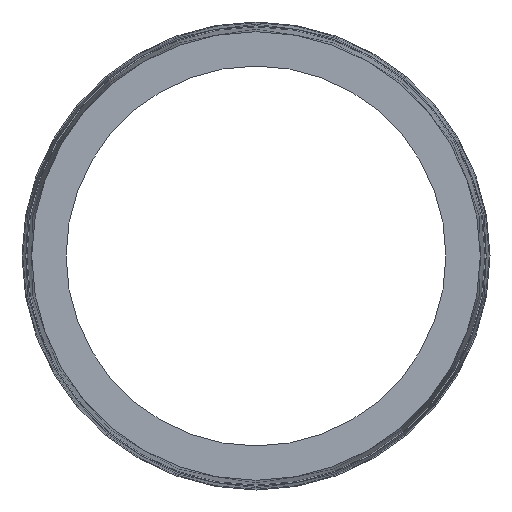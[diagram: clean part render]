
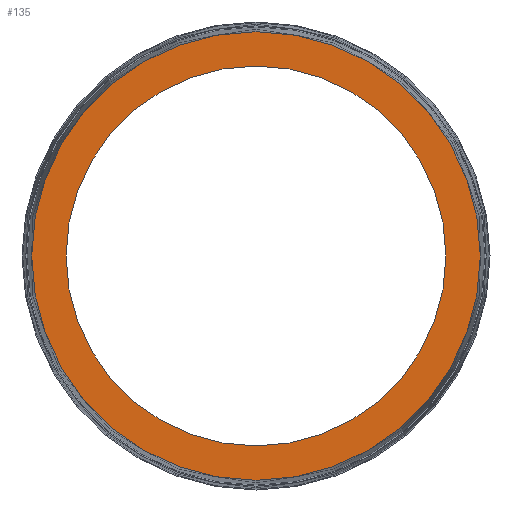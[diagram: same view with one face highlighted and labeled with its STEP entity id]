
A CAD part, front view. The second image highlights one B-rep face of the part: STEP entity #135.
In plain terms, the highlighted planar face has unit normal (0, -1, 0).
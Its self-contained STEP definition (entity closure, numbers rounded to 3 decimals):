
#18=PLANE('',#152);
#25=FACE_BOUND('',#50,.T.);
#26=FACE_BOUND('',#51,.T.);
#50=EDGE_LOOP('',(#110));
#51=EDGE_LOOP('',(#111));
#73=CIRCLE('',#151,13.8);
#74=CIRCLE('',#153,16.295);
#85=VERTEX_POINT('',#227);
#86=VERTEX_POINT('',#230);
#97=EDGE_CURVE('',#85,#85,#73,.T.);
#98=EDGE_CURVE('',#86,#86,#74,.T.);
#110=ORIENTED_EDGE('',*,*,#97,.T.);
#111=ORIENTED_EDGE('',*,*,#98,.F.);
#135=ADVANCED_FACE('',(#25,#26),#18,.T.);
#151=AXIS2_PLACEMENT_3D('',#228,#179,#180);
#152=AXIS2_PLACEMENT_3D('',#229,#181,#182);
#153=AXIS2_PLACEMENT_3D('',#231,#183,#184);
#179=DIRECTION('center_axis',(0.,1.,0.));
#180=DIRECTION('ref_axis',(1.,0.,0.));
#181=DIRECTION('center_axis',(0.,-1.,0.));
#182=DIRECTION('ref_axis',(0.,0.,-1.));
#183=DIRECTION('center_axis',(0.,1.,0.));
#184=DIRECTION('ref_axis',(1.,0.,0.));
#227=CARTESIAN_POINT('',(13.8,-21.5,0.));
#228=CARTESIAN_POINT('Origin',(0.,-21.5,0.));
#229=CARTESIAN_POINT('Origin',(0.,-21.5,16.295));
#230=CARTESIAN_POINT('',(0.,-21.5,16.295));
#231=CARTESIAN_POINT('Origin',(0.,-21.5,0.));
